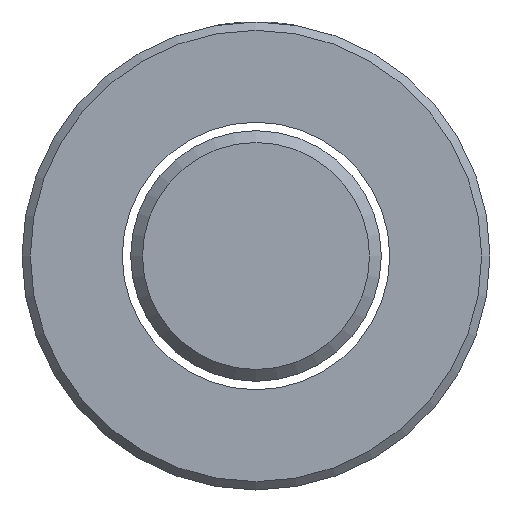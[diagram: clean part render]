
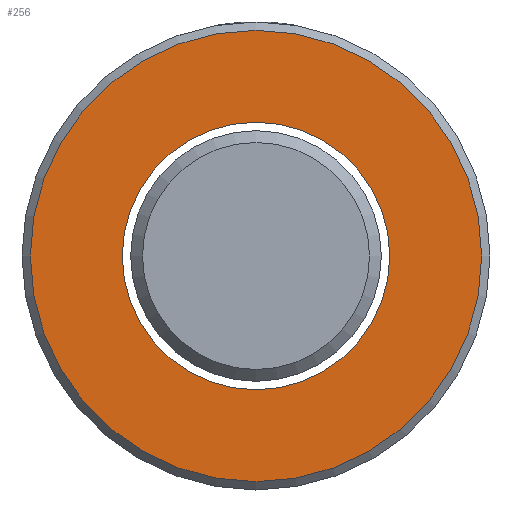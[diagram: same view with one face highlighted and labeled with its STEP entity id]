
A CAD part, left-side view. The second image highlights one B-rep face of the part: STEP entity #256.
In plain terms, the highlighted planar face has unit normal (-1, 0, 0).
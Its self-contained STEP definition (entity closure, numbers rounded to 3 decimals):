
#70 = CARTESIAN_POINT ( 'NONE',  ( -54., 0., 0. ) ) ;
#118 = VERTEX_POINT ( 'NONE', #666 ) ;
#141 = CIRCLE ( 'NONE', #490, 8. ) ;
#173 = AXIS2_PLACEMENT_3D ( 'NONE', #70, #614, #825 ) ;
#206 = FACE_BOUND ( 'NONE', #563, .T. ) ;
#226 = EDGE_CURVE ( 'NONE', #586, #586, #282, .T. ) ;
#256 = ADVANCED_FACE ( 'NONE', ( #206, #549 ), #813, .F. ) ;
#268 = ORIENTED_EDGE ( 'NONE', *, *, #226, .T. ) ;
#282 = CIRCLE ( 'NONE', #352, 13.5 ) ;
#327 = DIRECTION ( 'NONE',  ( 0., 0., -1. ) ) ;
#352 = AXIS2_PLACEMENT_3D ( 'NONE', #544, #618, #493 ) ;
#397 = ORIENTED_EDGE ( 'NONE', *, *, #793, .T. ) ;
#490 = AXIS2_PLACEMENT_3D ( 'NONE', #794, #523, #327 ) ;
#493 = DIRECTION ( 'NONE',  ( 0., 0., -1. ) ) ;
#523 = DIRECTION ( 'NONE',  ( 1., 0., 0. ) ) ;
#544 = CARTESIAN_POINT ( 'NONE',  ( -54., 0., 0. ) ) ;
#549 = FACE_OUTER_BOUND ( 'NONE', #630, .T. ) ;
#563 = EDGE_LOOP ( 'NONE', ( #397 ) ) ;
#586 = VERTEX_POINT ( 'NONE', #590 ) ;
#590 = CARTESIAN_POINT ( 'NONE',  ( -54., 0., -13.5 ) ) ;
#614 = DIRECTION ( 'NONE',  ( 1., 0., 0. ) ) ;
#618 = DIRECTION ( 'NONE',  ( -1., 0., 0. ) ) ;
#630 = EDGE_LOOP ( 'NONE', ( #268 ) ) ;
#666 = CARTESIAN_POINT ( 'NONE',  ( -54., 0., -8. ) ) ;
#793 = EDGE_CURVE ( 'NONE', #118, #118, #141, .T. ) ;
#794 = CARTESIAN_POINT ( 'NONE',  ( -54., 0., 0. ) ) ;
#813 = PLANE ( 'NONE',  #173 ) ;
#825 = DIRECTION ( 'NONE',  ( 0., 0., 1. ) ) ;
